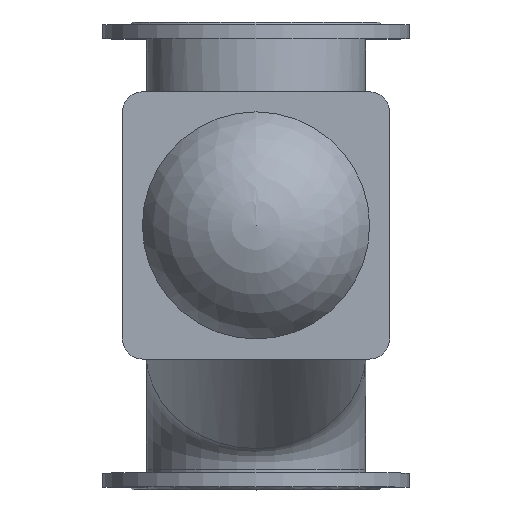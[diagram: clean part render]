
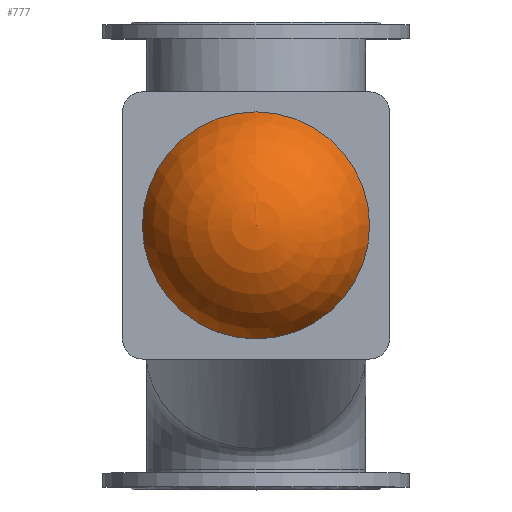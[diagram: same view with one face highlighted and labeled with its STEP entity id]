
A CAD part, top view. The second image highlights one B-rep face of the part: STEP entity #777.
In plain terms, the highlighted spherical face has radius 180.417 mm.
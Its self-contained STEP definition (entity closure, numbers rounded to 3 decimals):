
#777=ADVANCED_FACE('',(#2411),#2413,.T.);
#2411=FACE_OUTER_BOUND('',#2412,.T.);
#2412=EDGE_LOOP('',(#2939));
#2413=SPHERICAL_SURFACE('',#2414,180.417);
#2414=AXIS2_PLACEMENT_3D('',#2415,#2416,#2417);
#2415=CARTESIAN_POINT('',(0.,45.,377.583));
#2416=DIRECTION('',(0.,0.,-1.));
#2417=DIRECTION('',(0.,1.,0.));
#2939=ORIENTED_EDGE('',*,*,#3206,.T.);
#3206=EDGE_CURVE('',#3618,#3618,#3619,.F.);
#3618=VERTEX_POINT('',#5354);
#3619=CIRCLE('',#5355,170.);
#5354=CARTESIAN_POINT('',(0.,215.,438.));
#5355=AXIS2_PLACEMENT_3D('',#5356,#5357,#5358);
#5356=CARTESIAN_POINT('',(0.,45.,438.));
#5357=DIRECTION('',(0.,0.,-1.));
#5358=DIRECTION('',(0.,1.,0.));
